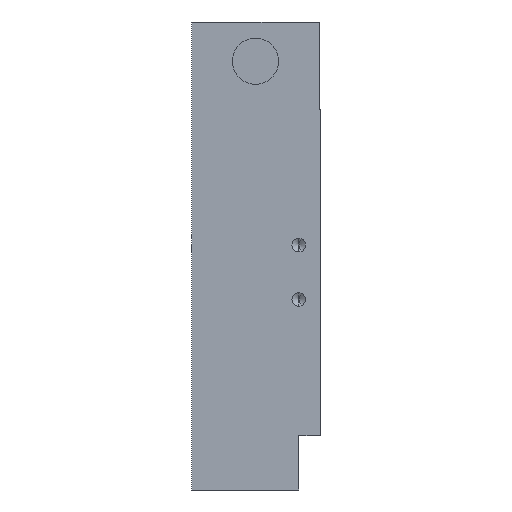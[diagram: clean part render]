
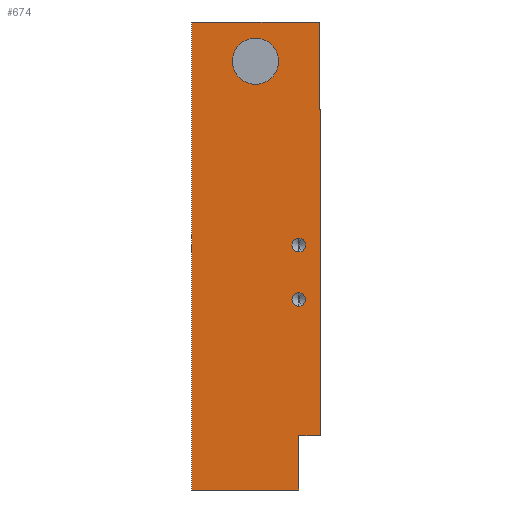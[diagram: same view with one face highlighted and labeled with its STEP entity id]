
A CAD part, left-side view. The second image highlights one B-rep face of the part: STEP entity #674.
In plain terms, the highlighted planar face has unit normal (-1, 0, 0).
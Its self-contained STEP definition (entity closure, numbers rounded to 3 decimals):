
#13 = VERTEX_POINT ( 'NONE', #794 ) ;
#16 = EDGE_CURVE ( 'NONE', #2000, #2739, #2077, .T. ) ;
#50 = CIRCLE ( 'NONE', #1029, 4.25 ) ;
#109 = EDGE_CURVE ( 'NONE', #2486, #2224, #1277, .T. ) ;
#157 = VERTEX_POINT ( 'NONE', #2798 ) ;
#219 = CARTESIAN_POINT ( 'NONE',  ( -164., 4., 2. ) ) ;
#231 = AXIS2_PLACEMENT_3D ( 'NONE', #1588, #1365, #1607 ) ;
#233 = DIRECTION ( 'NONE',  ( -1., 0., 0. ) ) ;
#291 = CARTESIAN_POINT ( 'NONE',  ( -164., 4., -43. ) ) ;
#330 = DIRECTION ( 'NONE',  ( 0., 0., 1. ) ) ;
#386 = DIRECTION ( 'NONE',  ( 0., 0., -1. ) ) ;
#408 = EDGE_CURVE ( 'NONE', #13, #157, #1133, .T. ) ;
#422 = ORIENTED_EDGE ( 'NONE', *, *, #3050, .F. ) ;
#445 = DIRECTION ( 'NONE',  ( -1., 0., 0. ) ) ;
#465 = AXIS2_PLACEMENT_3D ( 'NONE', #219, #2659, #2922 ) ;
#503 = VECTOR ( 'NONE', #2570, 1000. ) ;
#510 = FACE_OUTER_BOUND ( 'NONE', #2503, .T. ) ;
#514 = EDGE_CURVE ( 'NONE', #901, #1005, #2923, .T. ) ;
#526 = LINE ( 'NONE', #2079, #3018 ) ;
#613 = DIRECTION ( 'NONE',  ( -1., 0., 0. ) ) ;
#634 = CARTESIAN_POINT ( 'NONE',  ( -164., 23.7, 43. ) ) ;
#640 = DIRECTION ( 'NONE',  ( 0., 0., -1. ) ) ;
#674 = ADVANCED_FACE ( 'NONE', ( #3157, #1028, #2961, #510 ), #2074, .F. ) ;
#681 = CARTESIAN_POINT ( 'NONE',  ( -164., 4., 3.25 ) ) ;
#706 = DIRECTION ( 'NONE',  ( 0., -1., 0. ) ) ;
#714 = LINE ( 'NONE', #634, #1230 ) ;
#729 = LINE ( 'NONE', #854, #503 ) ;
#756 = VERTEX_POINT ( 'NONE', #2107 ) ;
#794 = CARTESIAN_POINT ( 'NONE',  ( -164., 4., -6.75 ) ) ;
#795 = ORIENTED_EDGE ( 'NONE', *, *, #109, .F. ) ;
#813 = DIRECTION ( 'NONE',  ( -1., 0., 0. ) ) ;
#823 = CARTESIAN_POINT ( 'NONE',  ( -164., 0., 27. ) ) ;
#833 = VECTOR ( 'NONE', #706, 1000. ) ;
#854 = CARTESIAN_POINT ( 'NONE',  ( -164., 0.2, 27. ) ) ;
#875 = EDGE_CURVE ( 'NONE', #1825, #901, #1601, .T. ) ;
#898 = CARTESIAN_POINT ( 'NONE',  ( -164., 0.2, 27. ) ) ;
#901 = VERTEX_POINT ( 'NONE', #2965 ) ;
#920 = DIRECTION ( 'NONE',  ( 0., 0., -1. ) ) ;
#931 = DIRECTION ( 'NONE',  ( 0., -1., 0. ) ) ;
#992 = EDGE_LOOP ( 'NONE', ( #1919, #1899 ) ) ;
#1005 = VERTEX_POINT ( 'NONE', #823 ) ;
#1028 = FACE_BOUND ( 'NONE', #992, .T. ) ;
#1029 = AXIS2_PLACEMENT_3D ( 'NONE', #3146, #445, #920 ) ;
#1032 = ORIENTED_EDGE ( 'NONE', *, *, #2948, .F. ) ;
#1133 = CIRCLE ( 'NONE', #2888, 1.25 ) ;
#1174 = EDGE_CURVE ( 'NONE', #2991, #1887, #1194, .T. ) ;
#1194 = LINE ( 'NONE', #1599, #1909 ) ;
#1230 = VECTOR ( 'NONE', #2604, 1000. ) ;
#1277 = CIRCLE ( 'NONE', #2145, 4.25 ) ;
#1287 = CARTESIAN_POINT ( 'NONE',  ( -164., 4., -33. ) ) ;
#1320 = EDGE_CURVE ( 'NONE', #756, #2159, #714, .T. ) ;
#1365 = DIRECTION ( 'NONE',  ( -1., 0., 0. ) ) ;
#1396 = CARTESIAN_POINT ( 'NONE',  ( -164., 23.7, -43. ) ) ;
#1401 = DIRECTION ( 'NONE',  ( 0., 0., 1. ) ) ;
#1404 = DIRECTION ( 'NONE',  ( 0., -1., 0. ) ) ;
#1429 = CARTESIAN_POINT ( 'NONE',  ( -164., 23.7, 43. ) ) ;
#1456 = ORIENTED_EDGE ( 'NONE', *, *, #1586, .F. ) ;
#1492 = ORIENTED_EDGE ( 'NONE', *, *, #514, .T. ) ;
#1548 = DIRECTION ( 'NONE',  ( 1., 0., 0. ) ) ;
#1581 = CARTESIAN_POINT ( 'NONE',  ( -164., 11.95, 35.8 ) ) ;
#1586 = EDGE_CURVE ( 'NONE', #2739, #2000, #2723, .T. ) ;
#1588 = CARTESIAN_POINT ( 'NONE',  ( -164., 4., -8. ) ) ;
#1599 = CARTESIAN_POINT ( 'NONE',  ( -164., 0.2, 43. ) ) ;
#1601 = LINE ( 'NONE', #2677, #1730 ) ;
#1607 = DIRECTION ( 'NONE',  ( 0., 0., 1. ) ) ;
#1608 = ORIENTED_EDGE ( 'NONE', *, *, #2012, .F. ) ;
#1613 = EDGE_LOOP ( 'NONE', ( #422, #795 ) ) ;
#1730 = VECTOR ( 'NONE', #1404, 1000. ) ;
#1766 = VECTOR ( 'NONE', #931, 1000. ) ;
#1820 = DIRECTION ( 'NONE',  ( 0., 0., -1. ) ) ;
#1825 = VERTEX_POINT ( 'NONE', #1287 ) ;
#1855 = AXIS2_PLACEMENT_3D ( 'NONE', #2573, #1548, #1820 ) ;
#1887 = VERTEX_POINT ( 'NONE', #898 ) ;
#1899 = ORIENTED_EDGE ( 'NONE', *, *, #2599, .F. ) ;
#1909 = VECTOR ( 'NONE', #386, 1000. ) ;
#1919 = ORIENTED_EDGE ( 'NONE', *, *, #408, .F. ) ;
#1934 = ORIENTED_EDGE ( 'NONE', *, *, #1174, .F. ) ;
#1945 = CARTESIAN_POINT ( 'NONE',  ( -164., 11.95, 31.55 ) ) ;
#1977 = EDGE_CURVE ( 'NONE', #1887, #1005, #729, .T. ) ;
#2000 = VERTEX_POINT ( 'NONE', #681 ) ;
#2003 = DIRECTION ( 'NONE',  ( 0., 0., 1. ) ) ;
#2012 = EDGE_CURVE ( 'NONE', #2159, #2991, #3034, .T. ) ;
#2067 = CARTESIAN_POINT ( 'NONE',  ( -164., 11.95, 40.05 ) ) ;
#2074 = PLANE ( 'NONE',  #1855 ) ;
#2077 = CIRCLE ( 'NONE', #2342, 1.25 ) ;
#2079 = CARTESIAN_POINT ( 'NONE',  ( -164., 4., -43. ) ) ;
#2080 = VECTOR ( 'NONE', #2003, 1000. ) ;
#2107 = CARTESIAN_POINT ( 'NONE',  ( -164., 23.7, -43. ) ) ;
#2145 = AXIS2_PLACEMENT_3D ( 'NONE', #1581, #613, #3047 ) ;
#2159 = VERTEX_POINT ( 'NONE', #2454 ) ;
#2219 = ORIENTED_EDGE ( 'NONE', *, *, #875, .T. ) ;
#2224 = VERTEX_POINT ( 'NONE', #1945 ) ;
#2270 = CARTESIAN_POINT ( 'NONE',  ( -164., 0., 43. ) ) ;
#2285 = VERTEX_POINT ( 'NONE', #291 ) ;
#2326 = CARTESIAN_POINT ( 'NONE',  ( -164., 0.2, 43. ) ) ;
#2334 = ORIENTED_EDGE ( 'NONE', *, *, #3032, .T. ) ;
#2342 = AXIS2_PLACEMENT_3D ( 'NONE', #2751, #813, #330 ) ;
#2377 = CARTESIAN_POINT ( 'NONE',  ( -164., 4., 0.75 ) ) ;
#2383 = ORIENTED_EDGE ( 'NONE', *, *, #16, .F. ) ;
#2454 = CARTESIAN_POINT ( 'NONE',  ( -164., 23.7, 43. ) ) ;
#2486 = VERTEX_POINT ( 'NONE', #2067 ) ;
#2503 = EDGE_LOOP ( 'NONE', ( #1032, #2219, #1492, #3185, #1934, #1608, #2818, #2334 ) ) ;
#2570 = DIRECTION ( 'NONE',  ( 0., -1., 0. ) ) ;
#2573 = CARTESIAN_POINT ( 'NONE',  ( -164., 23.7, 43. ) ) ;
#2599 = EDGE_CURVE ( 'NONE', #157, #13, #2790, .T. ) ;
#2604 = DIRECTION ( 'NONE',  ( 0., 0., 1. ) ) ;
#2655 = LINE ( 'NONE', #1396, #1766 ) ;
#2659 = DIRECTION ( 'NONE',  ( -1., 0., 0. ) ) ;
#2661 = CARTESIAN_POINT ( 'NONE',  ( -164., 4., -8. ) ) ;
#2677 = CARTESIAN_POINT ( 'NONE',  ( -164., 4., -33. ) ) ;
#2723 = CIRCLE ( 'NONE', #465, 1.25 ) ;
#2739 = VERTEX_POINT ( 'NONE', #2377 ) ;
#2751 = CARTESIAN_POINT ( 'NONE',  ( -164., 4., 2. ) ) ;
#2790 = CIRCLE ( 'NONE', #231, 1.25 ) ;
#2794 = EDGE_LOOP ( 'NONE', ( #2383, #1456 ) ) ;
#2798 = CARTESIAN_POINT ( 'NONE',  ( -164., 4., -9.25 ) ) ;
#2818 = ORIENTED_EDGE ( 'NONE', *, *, #1320, .F. ) ;
#2888 = AXIS2_PLACEMENT_3D ( 'NONE', #2661, #233, #1401 ) ;
#2922 = DIRECTION ( 'NONE',  ( 0., 0., 1. ) ) ;
#2923 = LINE ( 'NONE', #2270, #2080 ) ;
#2948 = EDGE_CURVE ( 'NONE', #1825, #2285, #526, .T. ) ;
#2961 = FACE_BOUND ( 'NONE', #1613, .T. ) ;
#2965 = CARTESIAN_POINT ( 'NONE',  ( -164., 0., -33. ) ) ;
#2991 = VERTEX_POINT ( 'NONE', #2326 ) ;
#3018 = VECTOR ( 'NONE', #640, 1000. ) ;
#3032 = EDGE_CURVE ( 'NONE', #756, #2285, #2655, .T. ) ;
#3034 = LINE ( 'NONE', #1429, #833 ) ;
#3047 = DIRECTION ( 'NONE',  ( 0., 0., -1. ) ) ;
#3050 = EDGE_CURVE ( 'NONE', #2224, #2486, #50, .T. ) ;
#3146 = CARTESIAN_POINT ( 'NONE',  ( -164., 11.95, 35.8 ) ) ;
#3157 = FACE_BOUND ( 'NONE', #2794, .T. ) ;
#3185 = ORIENTED_EDGE ( 'NONE', *, *, #1977, .F. ) ;
